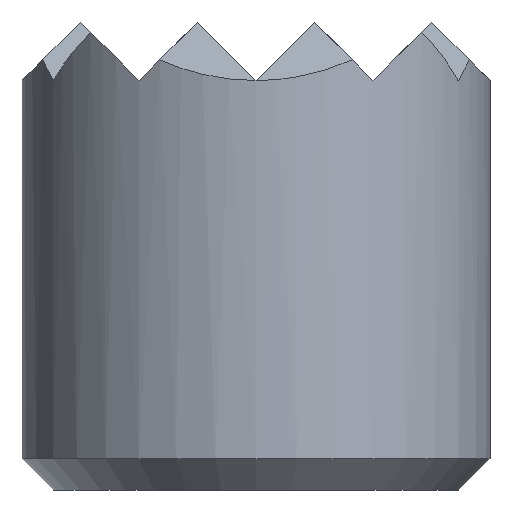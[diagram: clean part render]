
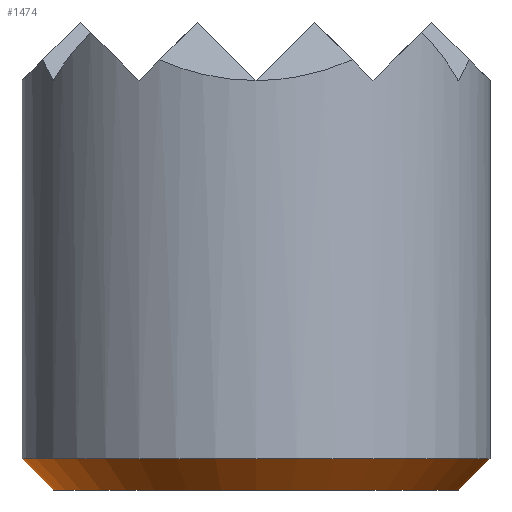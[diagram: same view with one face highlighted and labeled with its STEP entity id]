
A CAD part, front view. The second image highlights one B-rep face of the part: STEP entity #1474.
In plain terms, the highlighted conical face has half-angle 45 degrees and reference radius 6 mm.
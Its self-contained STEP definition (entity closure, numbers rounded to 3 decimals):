
#124 = EDGE_CURVE ( 'NONE', #1468, #337, #1362, .T. ) ;
#156 = ORIENTED_EDGE ( 'NONE', *, *, #350, .F. ) ;
#206 = DIRECTION ( 'NONE',  ( 1., 0., 0. ) ) ;
#337 = VERTEX_POINT ( 'NONE', #1260 ) ;
#350 = EDGE_CURVE ( 'NONE', #562, #1517, #861, .T. ) ;
#372 = AXIS2_PLACEMENT_3D ( 'NONE', #1745, #1616, #1631 ) ;
#430 = CONICAL_SURFACE ( 'NONE', #1440, 6., 0.785 ) ;
#562 = VERTEX_POINT ( 'NONE', #572 ) ;
#570 = DIRECTION ( 'NONE',  ( 1., 0., 0. ) ) ;
#572 = CARTESIAN_POINT ( 'NONE',  ( -5.2, 0., 0. ) ) ;
#639 = CIRCLE ( 'NONE', #372, 6. ) ;
#733 = FACE_OUTER_BOUND ( 'NONE', #1502, .T. ) ;
#818 = DIRECTION ( 'NONE',  ( 0.707, 0., 0.707 ) ) ;
#824 = DIRECTION ( 'NONE',  ( 0., 0., -1. ) ) ;
#861 = LINE ( 'NONE', #1415, #1145 ) ;
#888 = VECTOR ( 'NONE', #818, 1000. ) ;
#1017 = CARTESIAN_POINT ( 'NONE',  ( -6., 0., 0.8 ) ) ;
#1036 = ORIENTED_EDGE ( 'NONE', *, *, #124, .T. ) ;
#1084 = ORIENTED_EDGE ( 'NONE', *, *, #1411, .F. ) ;
#1108 = CARTESIAN_POINT ( 'NONE',  ( 0., 0., 0. ) ) ;
#1145 = VECTOR ( 'NONE', #1271, 1000. ) ;
#1247 = ORIENTED_EDGE ( 'NONE', *, *, #1342, .F. ) ;
#1260 = CARTESIAN_POINT ( 'NONE',  ( 6., 0., 0.8 ) ) ;
#1271 = DIRECTION ( 'NONE',  ( -0.707, 0., 0.707 ) ) ;
#1342 = EDGE_CURVE ( 'NONE', #1517, #337, #639, .T. ) ;
#1362 = LINE ( 'NONE', #1760, #888 ) ;
#1411 = EDGE_CURVE ( 'NONE', #1468, #562, #1597, .T. ) ;
#1415 = CARTESIAN_POINT ( 'NONE',  ( -6., 0., 0.8 ) ) ;
#1440 = AXIS2_PLACEMENT_3D ( 'NONE', #1664, #1442, #206 ) ;
#1442 = DIRECTION ( 'NONE',  ( 0., 0., 1. ) ) ;
#1468 = VERTEX_POINT ( 'NONE', #1566 ) ;
#1474 = ADVANCED_FACE ( 'NONE', ( #733 ), #430, .T. ) ;
#1502 = EDGE_LOOP ( 'NONE', ( #156, #1084, #1036, #1247 ) ) ;
#1517 = VERTEX_POINT ( 'NONE', #1017 ) ;
#1566 = CARTESIAN_POINT ( 'NONE',  ( 5.2, 0., 0. ) ) ;
#1572 = AXIS2_PLACEMENT_3D ( 'NONE', #1108, #824, #570 ) ;
#1597 = CIRCLE ( 'NONE', #1572, 5.2 ) ;
#1616 = DIRECTION ( 'NONE',  ( 0., 0., 1. ) ) ;
#1631 = DIRECTION ( 'NONE',  ( 1., 0., 0. ) ) ;
#1664 = CARTESIAN_POINT ( 'NONE',  ( 0., 0., 0.8 ) ) ;
#1745 = CARTESIAN_POINT ( 'NONE',  ( 0., 0., 0.8 ) ) ;
#1760 = CARTESIAN_POINT ( 'NONE',  ( 6., 0., 0.8 ) ) ;
